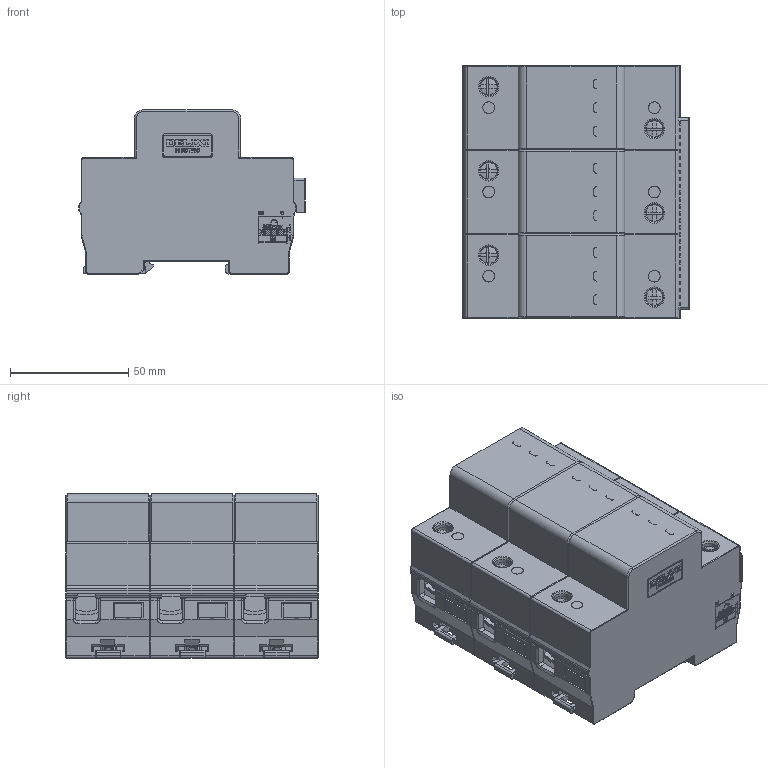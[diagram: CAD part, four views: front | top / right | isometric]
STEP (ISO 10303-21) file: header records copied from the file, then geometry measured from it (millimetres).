
FILE_DESCRIPTION((''),'2;1');
FILE_NAME('2207002700_SW00010','2023-03-16T',('linxiao.guan'),(''),'PRO/ENGINEER BY PARAMETRIC TECHNOLOGY CORPORATION, 2015440','PRO/ENGINEER BY PARAMETRIC TECHNOLOGY CORPORATION, 2015440','');
FILE_SCHEMA(('CONFIG_CONTROL_DESIGN'));
Products named in the file (1): 2207002700_SW00010
Bounding box: 95.8 x 106.8 x 69.4 mm (x, y, z)
Volume: 175933 mm3; surface area: 167383.3 mm2
Topology: 1 solids, 1 shells, 4814 faces, 13774 edges, 8935 vertices
Faces by surface type: plane 3670, cylinder 815, torus 116, cone 111, bspline 78, sphere 24
Entity records: 188803 total; most frequent: CARTESIAN_POINT 61983, ORIENTED_EDGE 27548, DIRECTION 24774, EDGE_CURVE 13774, VECTOR 11184, LINE 11184, VERTEX_POINT 8935, AXIS2_PLACEMENT_3D 6795
